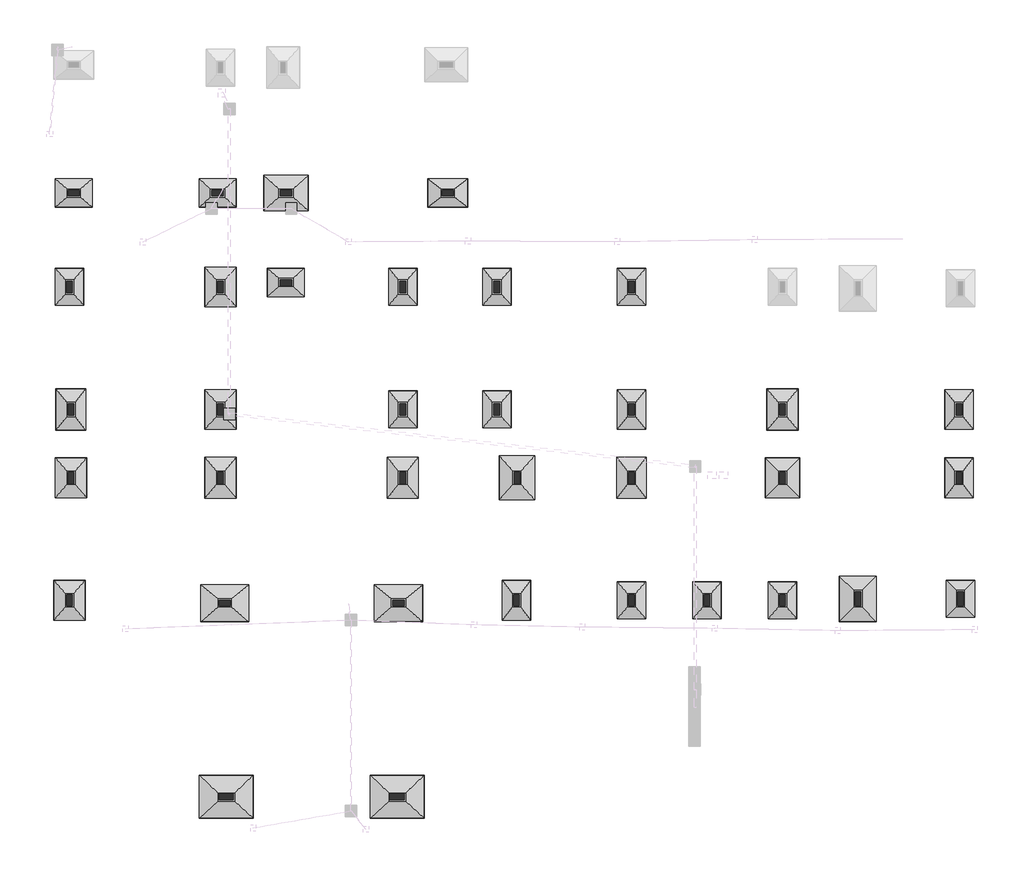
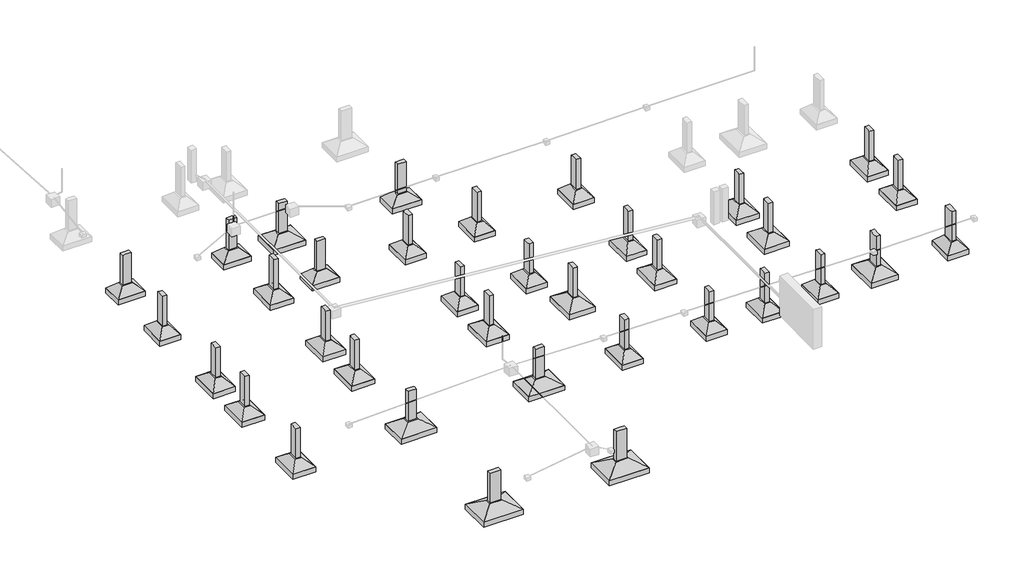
# One storey, part 1 of 2: 35 columns, 35 fasteners.
"""IFC4 building model written with IfcOpenShell, lengths in millimetres."""

from ifc_helpers import new_model, si_unit, origin, place, context, project, spatial, faceted_brep, transform, mapped, element, save
from components import s1_4bae340d, s16_36f2526b, s10_b3591f86, s19_11b22e92, s27_cbfd85cb, s32_88197e2a, s39_0cca4455, s25_540ac755, s26_9032f409, s48_2effd727, s50_1e73553d

model = new_model("IFC4")

# Units and contexts
model_context = context("Model", 3, world=origin())
ifc_project = project(units=[si_unit("LENGTHUNIT", "METRE", prefix="MILLI")], contexts=[model_context])

# Site, building, storey
site = spatial("IfcSite", under=ifc_project)
building = spatial("IfcBuilding", under=site)
storey = spatial("IfcBuildingStorey", under=building, Name="FUNDAÇÃO", Elevation=0.0)

# Columns
placement = place(None, origin())
element("IfcColumn", 1, ObjectType="TQS - Pilar retangular : 20,0x40,0", at=placement, inside=storey, context=model_context, shape_type="Brep", body=[
    faceted_brep([(150.0, 400.0, 0.0), (150.0, 0.0, 0.0), (-50.0, 0.0, 0.0), (-50.0, 400.0, 0.0), (150.0, 400.0, 1500.0), (150.0, 150.0, 1500.0), (150.0, 0.0, 1500.0), (150.0, 0.0, 900.0), (150.0, 400.0, 1000.0), (-50.0, 0.0, 1500.0), (-50.0, 400.0, 1500.0), (0.0, 400.0, 1500.0)], [[[0, 1, 2, 3]], [[4, 5, 6, 7, 1, 0, 8]], [[6, 9, 2, 1, 7]], [[9, 10, 3, 2]], [[10, 11, 4, 8, 0, 3]], [[4, 11, 10, 9, 6, 5]]]),
])
element("IfcColumn", 2, ObjectType="TQS - Pilar retangular : 20,0x40,0", at=placement, inside=storey, context=model_context, shape_type="Brep", body=[
    faceted_brep([(5700.0, 0.0, 0.0), (5300.0, 0.0, 0.0), (5300.0, 200.0, 0.0), (5700.0, 200.0, 0.0), (5700.0, 0.0, 1500.0), (5450.0, 0.0, 1500.0), (5300.0, 0.0, 1500.0), (5300.0, 0.0, 1000.0), (5300.0, 0.0, 900.0), (5700.0, 0.0, 900.0), (5300.0, 150.0, 1500.0), (5300.0, 200.0, 1500.0), (5300.0, 200.0, 1000.0), (5450.0, 200.0, 1500.0), (5700.0, 200.0, 1500.0), (5700.0, 150.0, 1500.0)], [[[0, 1, 2, 3]], [[4, 5, 6, 7, 8, 1, 0, 9]], [[6, 10, 11, 12, 2, 1, 8, 7]], [[11, 13, 14, 3, 2, 12]], [[14, 15, 4, 9, 0, 3]], [[4, 15, 14, 13, 11, 10, 6, 5]]]),
])
element("IfcColumn", 3, ObjectType="TQS - Pilar retangular : 20,0x40,0", at=placement, inside=storey, context=model_context, shape_type="Brep", body=[
    faceted_brep([(11800.0, 0.0, 0.0), (11400.0, 0.0, 0.0), (11400.0, 200.0, 0.0), (11800.0, 200.0, 0.0), (11800.0, 0.0, 1500.0), (11650.0, 0.0, 1500.0), (11400.0, 0.0, 1500.0), (11400.0, 0.0, 900.0), (11800.0, 0.0, 900.0), (11800.0, 0.0, 1000.0), (11400.0, 150.0, 1500.0), (11400.0, 200.0, 1500.0), (11650.0, 200.0, 1500.0), (11800.0, 200.0, 1500.0), (11800.0, 200.0, 1000.0), (11800.0, 150.0, 1500.0)], [[[0, 1, 2, 3]], [[4, 5, 6, 7, 1, 0, 8, 9]], [[6, 10, 11, 2, 1, 7]], [[11, 12, 13, 14, 3, 2]], [[13, 15, 4, 9, 8, 0, 3, 14]], [[4, 15, 13, 12, 11, 10, 6, 5]]]),
])
element("IfcColumn", 4, ObjectType="TQS - Pilar retangular : 20,0x40,0", at=placement, inside=storey, context=model_context, shape_type="Brep", body=[
    faceted_brep([(25180.0, 400.0, 0.0), (25180.0, 0.0, 0.0), (24980.0, 0.0, 0.0), (24980.0, 400.0, 0.0), (25180.0, 400.0, 1500.0), (25180.0, 150.0, 1500.0), (25180.0, 0.0, 1500.0), (25180.0, 0.0, 900.0), (25180.0, 400.0, 1000.0), (24980.0, 0.0, 1500.0), (24980.0, 0.0, 900.0), (24980.0, 150.0, 1500.0), (24980.0, 400.0, 1500.0), (25030.0, 400.0, 1500.0)], [[[0, 1, 2, 3]], [[4, 5, 6, 7, 1, 0, 8]], [[6, 9, 10, 2, 1, 7]], [[9, 11, 12, 3, 2, 10]], [[12, 13, 4, 8, 0, 3]], [[4, 13, 12, 11, 9, 6, 5]]]),
])
element("IfcColumn", 5, ObjectType="TQS - Pilar retangular : 20,0x40,0", at=placement, inside=storey, context=model_context, shape_type="Brep", body=[
    faceted_brep([(22530.0, 400.0, 0.0), (22530.0, 0.0, 0.0), (22330.0, 0.0, 0.0), (22330.0, 400.0, 0.0), (22530.0, 400.0, 1500.0), (22530.0, 150.0, 1500.0), (22530.0, 0.0, 1500.0), (22530.0, 0.0, 900.0), (22530.0, 400.0, 1000.0), (22330.0, 0.0, 1500.0), (22330.0, 0.0, 900.0), (22330.0, 150.0, 1500.0), (22330.0, 400.0, 1500.0), (22380.0, 400.0, 1500.0)], [[[0, 1, 2, 3]], [[4, 5, 6, 7, 1, 0, 8]], [[6, 9, 10, 2, 1, 7]], [[9, 11, 12, 3, 2, 10]], [[12, 13, 4, 8, 0, 3]], [[4, 13, 12, 11, 9, 6, 5]]]),
])
element("IfcColumn", 6, ObjectType="TQS - Pilar retangular : 20,0x40,0", at=placement, inside=storey, context=model_context, shape_type="Brep", body=[
    faceted_brep([(19880.0, 400.0, 0.0), (19880.0, 0.0, 0.0), (19680.0, 0.0, 0.0), (19680.0, 400.0, 0.0), (19880.0, 400.0, 1500.0), (19880.0, 150.0, 1500.0), (19880.0, 0.0, 1500.0), (19880.0, 0.0, 900.0), (19880.0, 400.0, 1000.0), (19680.0, 0.0, 1500.0), (19680.0, 0.0, 900.0), (19680.0, 150.0, 1500.0), (19680.0, 400.0, 1500.0), (19730.0, 400.0, 1500.0)], [[[0, 1, 2, 3]], [[4, 5, 6, 7, 1, 0, 8]], [[6, 9, 10, 2, 1, 7]], [[9, 11, 12, 3, 2, 10]], [[12, 13, 4, 8, 0, 3]], [[4, 13, 12, 11, 9, 6, 5]]]),
])
element("IfcColumn", 7, ObjectType="TQS - Pilar retangular : 20,0x40,0", at=placement, inside=storey, context=model_context, shape_type="Brep", body=[
    faceted_brep([(15840.0, 400.0, 0.0), (15840.0, 0.0, 0.0), (15640.0, 0.0, 0.0), (15640.0, 400.0, 0.0), (15840.0, 400.0, 1500.0), (15840.0, 150.0, 1500.0), (15840.0, 0.0, 1500.0), (15840.0, 0.0, 900.0), (15840.0, 400.0, 1000.0), (15640.0, 0.0, 1500.0), (15640.0, 0.0, 900.0), (15640.0, 150.0, 1500.0), (15640.0, 400.0, 1500.0), (15690.0, 400.0, 1500.0)], [[[0, 1, 2, 3]], [[4, 5, 6, 7, 1, 0, 8]], [[6, 9, 10, 2, 1, 7]], [[9, 11, 12, 3, 2, 10]], [[12, 13, 4, 8, 0, 3]], [[4, 13, 12, 11, 9, 6, 5]]]),
])
element("IfcColumn", 8, ObjectType="TQS - Pilar retangular : 20,0x40,0", at=placement, inside=storey, context=model_context, shape_type="Brep", body=[
    faceted_brep([(31380.0, 4700.0, 0.0), (31380.0, 4300.0, 0.0), (31180.0, 4300.0, 0.0), (31180.0, 4700.0, 0.0), (31380.0, 4700.0, 1500.0), (31380.0, 4300.0, 1500.0), (31380.0, 4300.0, 1000.0), (31380.0, 4700.0, 1000.0), (31230.0, 4300.0, 1500.0), (31180.0, 4300.0, 1500.0), (31180.0, 4550.0, 1500.0), (31180.0, 4700.0, 1500.0), (31180.0, 4700.0, 950.0), (31230.0, 4700.0, 1500.0)], [[[0, 1, 2, 3]], [[4, 5, 6, 1, 0, 7]], [[5, 8, 9, 2, 1, 6]], [[9, 10, 11, 12, 3, 2]], [[11, 13, 4, 7, 0, 3, 12]], [[4, 13, 11, 10, 9, 8, 5]]]),
])
element("IfcColumn", 9, ObjectType="TQS - Pilar retangular : 20,0x40,0", at=placement, inside=storey, context=model_context, shape_type="Brep", body=[
    faceted_brep([(31380.0, 7100.0, 0.0), (31380.0, 6700.0, 0.0), (31180.0, 6700.0, 0.0), (31180.0, 7100.0, 0.0), (31380.0, 7100.0, 1500.0), (31380.0, 6700.0, 1500.0), (31380.0, 6700.0, 1000.0), (31380.0, 7100.0, 1000.0), (31230.0, 6700.0, 1500.0), (31180.0, 6700.0, 1500.0), (31180.0, 6700.0, 950.0), (31180.0, 6850.0, 1500.0), (31180.0, 7100.0, 1500.0), (31230.0, 7100.0, 1500.0)], [[[0, 1, 2, 3]], [[4, 5, 6, 1, 0, 7]], [[5, 8, 9, 10, 2, 1, 6]], [[9, 11, 12, 3, 2, 10]], [[12, 13, 4, 7, 0, 3]], [[4, 13, 12, 11, 9, 8, 5]]]),
])
element("IfcColumn", 10, ObjectType="TQS - Pilar retangular : 20,0x40,0", at=placement, inside=storey, context=model_context, shape_type="Brep", body=[
    faceted_brep([(19880.0, 11400.0, 0.0), (19880.0, 11000.0, 0.0), (19680.0, 11000.0, 0.0), (19680.0, 11400.0, 0.0), (19880.0, 11400.0, 1500.0), (19880.0, 11250.0, 1500.0), (19880.0, 11000.0, 1500.0), (19880.0, 11000.0, 1000.0), (19880.0, 11400.0, 900.0), (19730.0, 11000.0, 1500.0), (19680.0, 11000.0, 1500.0), (19680.0, 11250.0, 1500.0), (19680.0, 11400.0, 1500.0), (19680.0, 11400.0, 900.0)], [[[0, 1, 2, 3]], [[4, 5, 6, 7, 1, 0, 8]], [[6, 9, 10, 2, 1, 7]], [[10, 11, 12, 13, 3, 2]], [[12, 4, 8, 0, 3, 13]], [[4, 12, 11, 10, 9, 6, 5]]]),
])
element("IfcColumn", 11, ObjectType="TQS - Pilar retangular : 20,0x40,0", at=placement, inside=storey, context=model_context, shape_type="Brep", body=[
    faceted_brep([(15150.0, 11400.0, 0.0), (15150.0, 11000.0, 0.0), (14950.0, 11000.0, 0.0), (14950.0, 11400.0, 0.0), (15150.0, 11400.0, 1500.0), (15150.0, 11250.0, 1500.0), (15150.0, 11000.0, 1500.0), (15150.0, 11000.0, 1000.0), (15150.0, 11400.0, 900.0), (15000.0, 11000.0, 1500.0), (14950.0, 11000.0, 1500.0), (14950.0, 11250.0, 1500.0), (14950.0, 11400.0, 1500.0), (14950.0, 11400.0, 900.0)], [[[0, 1, 2, 3]], [[4, 5, 6, 7, 1, 0, 8]], [[6, 9, 10, 2, 1, 7]], [[10, 11, 12, 13, 3, 2]], [[12, 4, 8, 0, 3, 13]], [[4, 12, 11, 10, 9, 6, 5]]]),
])
element("IfcColumn", 12, ObjectType="TQS - Pilar retangular : 20,0x40,0", at=placement, inside=storey, context=model_context, shape_type="Brep", body=[
    faceted_brep([(11850.0, 4700.0, 0.0), (11850.0, 4300.0, 0.0), (11650.0, 4300.0, 0.0), (11650.0, 4700.0, 0.0), (11850.0, 4700.0, 1500.0), (11850.0, 4550.0, 1500.0), (11850.0, 4300.0, 1500.0), (11850.0, 4700.0, 950.0), (11800.0, 4300.0, 1500.0), (11650.0, 4300.0, 1500.0), (11650.0, 4300.0, 1000.0), (11650.0, 4700.0, 1500.0), (11650.0, 4700.0, 1000.0), (11800.0, 4700.0, 1500.0)], [[[0, 1, 2, 3]], [[4, 5, 6, 1, 0, 7]], [[6, 8, 9, 10, 2, 1]], [[9, 11, 12, 3, 2, 10]], [[11, 13, 4, 7, 0, 3, 12]], [[4, 13, 11, 9, 8, 6, 5]]]),
])
element("IfcColumn", 13, ObjectType="TQS - Pilar retangular : 20,0x40,0", at=placement, inside=storey, context=model_context, shape_type="Brep", body=[
    faceted_brep([(11850.0, 7100.0, 0.0), (11850.0, 6700.0, 0.0), (11650.0, 6700.0, 0.0), (11650.0, 7100.0, 0.0), (11850.0, 7100.0, 1500.0), (11850.0, 6850.0, 1500.0), (11850.0, 6700.0, 1500.0), (11850.0, 6700.0, 950.0), (11800.0, 6700.0, 1500.0), (11650.0, 6700.0, 1500.0), (11650.0, 6700.0, 1000.0), (11650.0, 7100.0, 1500.0), (11650.0, 7100.0, 1000.0), (11800.0, 7100.0, 1500.0)], [[[0, 1, 2, 3]], [[4, 5, 6, 7, 1, 0]], [[6, 8, 9, 10, 2, 1, 7]], [[9, 11, 12, 3, 2, 10]], [[11, 13, 4, 0, 3, 12]], [[4, 13, 11, 9, 8, 6, 5]]]),
])
element("IfcColumn", 14, ObjectType="TQS - Pilar retangular : 20,0x40,0", at=placement, inside=storey, context=model_context, shape_type="Brep", body=[
    faceted_brep([(11850.0, 11400.0, 0.0), (11850.0, 11000.0, 0.0), (11650.0, 11000.0, 0.0), (11650.0, 11400.0, 0.0), (11850.0, 11400.0, 1500.0), (11850.0, 11250.0, 1500.0), (11850.0, 11000.0, 1500.0), (11850.0, 11400.0, 900.0), (11800.0, 11000.0, 1500.0), (11650.0, 11000.0, 1500.0), (11650.0, 11000.0, 1000.0), (11650.0, 11250.0, 1500.0), (11650.0, 11400.0, 1500.0), (11650.0, 11400.0, 900.0)], [[[0, 1, 2, 3]], [[4, 5, 6, 1, 0, 7]], [[6, 8, 9, 10, 2, 1]], [[9, 11, 12, 13, 3, 2, 10]], [[12, 4, 7, 0, 3, 13]], [[4, 12, 11, 9, 8, 6, 5]]]),
])
element("IfcColumn", 15, ObjectType="TQS - Pilar retangular : 20,0x40,0", at=placement, inside=storey, context=model_context, shape_type="Brep", body=[
    faceted_brep([(15865.0, 4700.0, 0.0), (15865.0, 4300.0, 0.0), (15665.0, 4300.0, 0.0), (15665.0, 4700.0, 0.0), (15865.0, 4700.0, 1500.0), (15865.0, 4550.0, 1500.0), (15865.0, 4300.0, 1500.0), (15865.0, 4700.0, 950.0), (15840.0, 4300.0, 1500.0), (15690.0, 4300.0, 1500.0), (15665.0, 4300.0, 1500.0), (15665.0, 4550.0, 1500.0), (15665.0, 4700.0, 1500.0), (15665.0, 4700.0, 950.0)], [[[0, 1, 2, 3]], [[4, 5, 6, 1, 0, 7]], [[6, 8, 9, 10, 2, 1]], [[10, 11, 12, 13, 3, 2]], [[12, 4, 7, 0, 3, 13]], [[4, 12, 11, 10, 9, 8, 6, 5]]]),
])
element("IfcColumn", 16, ObjectType="TQS - Pilar retangular : 20,0x40,0", at=placement, inside=storey, context=model_context, shape_type="Brep", body=[
    faceted_brep([(19880.0, 4700.0, 0.0), (19880.0, 4300.0, 0.0), (19680.0, 4300.0, 0.0), (19680.0, 4700.0, 0.0), (19880.0, 4700.0, 1500.0), (19880.0, 4550.0, 1500.0), (19880.0, 4300.0, 1500.0), (19880.0, 4300.0, 1000.0), (19880.0, 4700.0, 950.0), (19880.0, 4700.0, 1000.0), (19730.0, 4300.0, 1500.0), (19680.0, 4300.0, 1500.0), (19680.0, 4550.0, 1500.0), (19680.0, 4700.0, 1500.0), (19680.0, 4700.0, 950.0), (19730.0, 4700.0, 1500.0)], [[[0, 1, 2, 3]], [[4, 5, 6, 7, 1, 0, 8, 9]], [[6, 10, 11, 2, 1, 7]], [[11, 12, 13, 14, 3, 2]], [[13, 15, 4, 9, 8, 0, 3, 14]], [[4, 15, 13, 12, 11, 10, 6, 5]]]),
])
element("IfcColumn", 17, ObjectType="TQS - Pilar retangular : 20,0x40,0", at=placement, inside=storey, context=model_context, shape_type="Brep", body=[
    faceted_brep([(25180.0, 4700.0, 0.0), (25180.0, 4300.0, 0.0), (24980.0, 4300.0, 0.0), (24980.0, 4700.0, 0.0), (25180.0, 4700.0, 1500.0), (25180.0, 4550.0, 1500.0), (25180.0, 4300.0, 1500.0), (25180.0, 4300.0, 1000.0), (25180.0, 4700.0, 950.0), (25180.0, 4700.0, 1000.0), (25030.0, 4300.0, 1500.0), (24980.0, 4300.0, 1500.0), (24980.0, 4550.0, 1500.0), (24980.0, 4700.0, 1500.0), (24980.0, 4700.0, 950.0), (25030.0, 4700.0, 1500.0)], [[[0, 1, 2, 3]], [[4, 5, 6, 7, 1, 0, 8, 9]], [[6, 10, 11, 2, 1, 7]], [[11, 12, 13, 14, 3, 2]], [[13, 15, 4, 9, 8, 0, 3, 14]], [[4, 15, 13, 12, 11, 10, 6, 5]]]),
])
element("IfcColumn", 18, ObjectType="TQS - Pilar retangular : 20,0x40,0", at=placement, inside=storey, context=model_context, shape_type="Brep", body=[
    faceted_brep([(25180.0, 7100.0, 0.0), (25180.0, 6700.0, 0.0), (24980.0, 6700.0, 0.0), (24980.0, 7100.0, 0.0), (25180.0, 7100.0, 1500.0), (25180.0, 6850.0, 1500.0), (25180.0, 6700.0, 1500.0), (25180.0, 6700.0, 1000.0), (25180.0, 6700.0, 950.0), (25180.0, 7100.0, 1000.0), (25030.0, 6700.0, 1500.0), (24980.0, 6700.0, 1500.0), (24980.0, 6700.0, 950.0), (24980.0, 6850.0, 1500.0), (24980.0, 7100.0, 1500.0), (25030.0, 7100.0, 1500.0)], [[[0, 1, 2, 3]], [[4, 5, 6, 7, 8, 1, 0, 9]], [[6, 10, 11, 12, 2, 1, 8, 7]], [[11, 13, 14, 3, 2, 12]], [[14, 15, 4, 9, 0, 3]], [[4, 15, 14, 13, 11, 10, 6, 5]]]),
])
element("IfcColumn", 19, ObjectType="TQS - Pilar retangular : 20,0x40,0", at=placement, inside=storey, context=model_context, shape_type="Brep", body=[
    faceted_brep([(19880.0, 7100.0, 0.0), (19880.0, 6700.0, 0.0), (19680.0, 6700.0, 0.0), (19680.0, 7100.0, 0.0), (19880.0, 7100.0, 1500.0), (19880.0, 6850.0, 1500.0), (19880.0, 6700.0, 1500.0), (19880.0, 6700.0, 1000.0), (19880.0, 6700.0, 950.0), (19880.0, 7100.0, 1000.0), (19730.0, 6700.0, 1500.0), (19680.0, 6700.0, 1500.0), (19680.0, 6700.0, 950.0), (19680.0, 6850.0, 1500.0), (19680.0, 7100.0, 1500.0), (19730.0, 7100.0, 1500.0)], [[[0, 1, 2, 3]], [[4, 5, 6, 7, 8, 1, 0, 9]], [[6, 10, 11, 12, 2, 1, 8, 7]], [[11, 13, 14, 3, 2, 12]], [[14, 15, 4, 9, 0, 3]], [[4, 15, 14, 13, 11, 10, 6, 5]]]),
])
element("IfcColumn", 20, ObjectType="TQS - Pilar retangular : 20,0x40,0", at=placement, inside=storey, context=model_context, shape_type="Brep", body=[
    faceted_brep([(15150.0, 7100.0, 0.0), (15150.0, 6700.0, 0.0), (14950.0, 6700.0, 0.0), (14950.0, 7100.0, 0.0), (15150.0, 7100.0, 1500.0), (15150.0, 6850.0, 1500.0), (15150.0, 6700.0, 1500.0), (15150.0, 6700.0, 950.0), (15150.0, 7100.0, 1000.0), (14950.0, 6700.0, 1500.0), (14950.0, 6700.0, 950.0), (14950.0, 6850.0, 1500.0), (14950.0, 7100.0, 1500.0), (15000.0, 7100.0, 1500.0)], [[[0, 1, 2, 3]], [[4, 5, 6, 7, 1, 0, 8]], [[6, 9, 10, 2, 1, 7]], [[9, 11, 12, 3, 2, 10]], [[12, 13, 4, 8, 0, 3]], [[4, 13, 12, 11, 9, 6, 5]]]),
])
element("IfcColumn", 21, ObjectType="TQS - Pilar retangular : 20,0x40,0", at=placement, inside=storey, context=model_context, shape_type="Brep", body=[
    faceted_brep([(5450.0, 4700.0, 0.0), (5450.0, 4300.0, 0.0), (5250.0, 4300.0, 0.0), (5250.0, 4700.0, 0.0), (5450.0, 4700.0, 1500.0), (5450.0, 4300.0, 1500.0), (5450.0, 4300.0, 1000.0), (5450.0, 4700.0, 1000.0), (5300.0, 4300.0, 1500.0), (5250.0, 4300.0, 1500.0), (5250.0, 4550.0, 1500.0), (5250.0, 4700.0, 1500.0), (5250.0, 4700.0, 1000.0), (5300.0, 4700.0, 1500.0)], [[[0, 1, 2, 3]], [[4, 5, 6, 1, 0, 7]], [[5, 8, 9, 2, 1, 6]], [[9, 10, 11, 12, 3, 2]], [[11, 13, 4, 7, 0, 3, 12]], [[4, 13, 11, 10, 9, 8, 5]]]),
])
element("IfcColumn", 22, ObjectType="TQS - Pilar retangular : 20,0x40,0", at=placement, inside=storey, context=model_context, shape_type="Brep", body=[
    faceted_brep([(5450.0, 7100.0, 0.0), (5450.0, 6700.0, 0.0), (5250.0, 6700.0, 0.0), (5250.0, 7100.0, 0.0), (5450.0, 7100.0, 1500.0), (5450.0, 6700.0, 1500.0), (5450.0, 6700.0, 1000.0), (5450.0, 7100.0, 1000.0), (5300.0, 6700.0, 1500.0), (5250.0, 6700.0, 1500.0), (5250.0, 6700.0, 1000.0), (5250.0, 6850.0, 1500.0), (5250.0, 7100.0, 1500.0), (5300.0, 7100.0, 1500.0)], [[[0, 1, 2, 3]], [[4, 5, 6, 1, 0, 7]], [[5, 8, 9, 10, 2, 1, 6]], [[9, 11, 12, 3, 2, 10]], [[12, 13, 4, 7, 0, 3]], [[4, 13, 12, 11, 9, 8, 5]]]),
])
element("IfcColumn", 23, ObjectType="TQS - Pilar retangular : 20,0x40,0", at=placement, inside=storey, context=model_context, shape_type="Brep", body=[
    faceted_brep([(200.0, 7100.0, 0.0), (200.0, 6700.0, 0.0), (0.0, 6700.0, 0.0), (0.0, 7100.0, 0.0), (200.0, 7100.0, 1500.0), (200.0, 6850.0, 1500.0), (200.0, 6700.0, 1500.0), (200.0, 6700.0, 1000.0), (150.0, 6700.0, 1500.0), (0.0, 6700.0, 1500.0), (0.0, 6700.0, 1000.0), (0.0, 7100.0, 1500.0), (0.0, 7100.0, 1000.0), (150.0, 7100.0, 1500.0)], [[[0, 1, 2, 3]], [[4, 5, 6, 7, 1, 0]], [[6, 8, 9, 10, 2, 1, 7]], [[9, 11, 12, 3, 2, 10]], [[11, 13, 4, 0, 3, 12]], [[4, 13, 11, 9, 8, 6, 5]]]),
])
element("IfcColumn", 24, ObjectType="TQS - Pilar retangular : 20,0x40,0", at=placement, inside=storey, context=model_context, shape_type="Brep", body=[
    faceted_brep([(200.0, 4700.0, 0.0), (200.0, 4300.0, 0.0), (0.0, 4300.0, 0.0), (0.0, 4700.0, 0.0), (200.0, 4700.0, 1500.0), (200.0, 4550.0, 1500.0), (200.0, 4300.0, 1500.0), (200.0, 4700.0, 1000.0), (150.0, 4300.0, 1500.0), (0.0, 4300.0, 1500.0), (0.0, 4300.0, 1000.0), (0.0, 4700.0, 1500.0), (0.0, 4700.0, 1000.0), (150.0, 4700.0, 1500.0)], [[[0, 1, 2, 3]], [[4, 5, 6, 1, 0, 7]], [[6, 8, 9, 10, 2, 1]], [[9, 11, 12, 3, 2, 10]], [[11, 13, 4, 7, 0, 3, 12]], [[4, 13, 11, 9, 8, 6, 5]]]),
])
element("IfcColumn", 25, ObjectType="TQS - Pilar retangular : 20,0x40,0", at=placement, inside=storey, context=model_context, shape_type="Brep", body=[
    faceted_brep([(150.0, 11400.0, 0.0), (150.0, 11000.0, 0.0), (-50.0, 11000.0, 0.0), (-50.0, 11400.0, 0.0), (150.0, 11400.0, 1500.0), (150.0, 11250.0, 1500.0), (150.0, 11000.0, 1500.0), (150.0, 11000.0, 1000.0), (150.0, 11400.0, 900.0), (150.0, 11400.0, 1000.0), (0.0, 11000.0, 1500.0), (-50.0, 11000.0, 1500.0), (-50.0, 11400.0, 1500.0), (0.0, 11400.0, 1500.0)], [[[0, 1, 2, 3]], [[4, 5, 6, 7, 1, 0, 8, 9]], [[6, 10, 11, 2, 1, 7]], [[11, 12, 3, 2]], [[12, 13, 4, 9, 8, 0, 3]], [[4, 13, 12, 11, 10, 6, 5]]]),
])
element("IfcColumn", 26, ObjectType="TQS - Pilar retangular : 20,0x40,0", at=placement, inside=storey, context=model_context, shape_type="Brep", body=[
    faceted_brep([(5450.0, 11400.0, 0.0), (5450.0, 11000.0, 0.0), (5250.0, 11000.0, 0.0), (5250.0, 11400.0, 0.0), (5450.0, 11400.0, 1500.0), (5450.0, 11250.0, 1500.0), (5450.0, 11000.0, 1500.0), (5450.0, 11000.0, 1000.0), (5450.0, 11400.0, 900.0), (5450.0, 11400.0, 1000.0), (5300.0, 11000.0, 1500.0), (5250.0, 11000.0, 1500.0), (5250.0, 11250.0, 1500.0), (5250.0, 11400.0, 1500.0), (5250.0, 11400.0, 900.0), (5300.0, 11400.0, 1500.0)], [[[0, 1, 2, 3]], [[4, 5, 6, 7, 1, 0, 8, 9]], [[6, 10, 11, 2, 1, 7]], [[11, 12, 13, 14, 3, 2]], [[13, 15, 4, 9, 8, 0, 3, 14]], [[4, 15, 13, 12, 11, 10, 6, 5]]]),
])
element("IfcColumn", 27, ObjectType="TQS - Pilar retangular : 20,0x40,0", at=placement, inside=storey, context=model_context, shape_type="Brep", body=[
    faceted_brep([(400.0, 14400.0, 0.0), (0.0, 14400.0, 0.0), (0.0, 14600.0, 0.0), (400.0, 14600.0, 0.0), (400.0, 14400.0, 1500.0), (150.0, 14400.0, 1500.0), (0.0, 14400.0, 1500.0), (0.0, 14400.0, 1000.0), (400.0, 14400.0, 900.0), (0.0, 14600.0, 1500.0), (0.0, 14600.0, 1000.0), (150.0, 14600.0, 1500.0), (400.0, 14600.0, 1500.0), (400.0, 14550.0, 1500.0)], [[[0, 1, 2, 3]], [[4, 5, 6, 7, 1, 0, 8]], [[6, 9, 10, 2, 1, 7]], [[9, 11, 12, 3, 2, 10]], [[12, 13, 4, 8, 0, 3]], [[4, 13, 12, 11, 9, 6, 5]]]),
])
element("IfcColumn", 28, ObjectType="TQS - Pilar retangular : 20,0x40,0", at=placement, inside=storey, context=model_context, shape_type="Brep", body=[
    faceted_brep([(5450.0, 14400.0, 0.0), (5050.0, 14400.0, 0.0), (5050.0, 14600.0, 0.0), (5450.0, 14600.0, 0.0), (5450.0, 14400.0, 1500.0), (5300.0, 14400.0, 1500.0), (5050.0, 14400.0, 1500.0), (5050.0, 14400.0, 900.0), (5450.0, 14400.0, 900.0), (5450.0, 14400.0, 1000.0), (5050.0, 14550.0, 1500.0), (5050.0, 14600.0, 1500.0), (5300.0, 14600.0, 1500.0), (5450.0, 14600.0, 1500.0), (5450.0, 14600.0, 1000.0), (5450.0, 14550.0, 1500.0)], [[[0, 1, 2, 3]], [[4, 5, 6, 7, 1, 0, 8, 9]], [[6, 10, 11, 2, 1, 7]], [[11, 12, 13, 14, 3, 2]], [[13, 15, 4, 9, 8, 0, 3, 14]], [[4, 15, 13, 12, 11, 10, 6, 5]]]),
])
element("IfcColumn", 29, ObjectType="TQS - Pilar retangular : 20,0x40,0", at=placement, inside=storey, context=model_context, shape_type="Brep", body=[
    faceted_brep([(7850.0, 14400.0, 0.0), (7450.0, 14400.0, 0.0), (7450.0, 14600.0, 0.0), (7850.0, 14600.0, 0.0), (7850.0, 14400.0, 1500.0), (7600.0, 14400.0, 1500.0), (7450.0, 14400.0, 1500.0), (7450.0, 14400.0, 1000.0), (7450.0, 14400.0, 900.0), (7850.0, 14400.0, 900.0), (7450.0, 14550.0, 1500.0), (7450.0, 14600.0, 1500.0), (7450.0, 14600.0, 1000.0), (7600.0, 14600.0, 1500.0), (7850.0, 14600.0, 1500.0), (7850.0, 14550.0, 1500.0)], [[[0, 1, 2, 3]], [[4, 5, 6, 7, 8, 1, 0, 9]], [[6, 10, 11, 12, 2, 1, 8, 7]], [[11, 13, 14, 3, 2, 12]], [[14, 15, 4, 9, 0, 3]], [[4, 15, 14, 13, 11, 10, 6, 5]]]),
])
element("IfcColumn", 30, ObjectType="TQS - Pilar retangular : 20,0x40,0", at=placement, inside=storey, context=model_context, shape_type="Brep", body=[
    faceted_brep([(13530.0, 14400.0, 0.0), (13130.0, 14400.0, 0.0), (13130.0, 14600.0, 0.0), (13530.0, 14600.0, 0.0), (13530.0, 14400.0, 1500.0), (13380.0, 14400.0, 1500.0), (13130.0, 14400.0, 1500.0), (13130.0, 14400.0, 900.0), (13530.0, 14400.0, 1000.0), (13130.0, 14550.0, 1500.0), (13130.0, 14600.0, 1500.0), (13380.0, 14600.0, 1500.0), (13530.0, 14600.0, 1500.0), (13530.0, 14600.0, 1000.0)], [[[0, 1, 2, 3]], [[4, 5, 6, 7, 1, 0, 8]], [[6, 9, 10, 2, 1, 7]], [[10, 11, 12, 13, 3, 2]], [[12, 4, 8, 0, 3, 13]], [[4, 12, 11, 10, 9, 6, 5]]]),
])
element("IfcColumn", 31, ObjectType="TQS - Pilar retangular : 20,0x40,0", at=placement, inside=storey, context=model_context, shape_type="Brep", body=[
    faceted_brep([(7450.0, 11450.0, 0.0), (7850.0, 11450.0, 0.0), (7850.0, 11250.0, 0.0), (7450.0, 11250.0, 0.0), (7450.0, 11450.0, 1500.0), (7600.0, 11450.0, 1500.0), (7850.0, 11450.0, 1500.0), (7450.0, 11450.0, 1000.0), (7850.0, 11400.0, 1500.0), (7850.0, 11250.0, 1500.0), (7850.0, 11250.0, 900.0), (7450.0, 11250.0, 1500.0), (7450.0, 11250.0, 900.0), (7450.0, 11400.0, 1500.0)], [[[0, 1, 2, 3]], [[4, 5, 6, 1, 0, 7]], [[6, 8, 9, 10, 2, 1]], [[9, 11, 12, 3, 2, 10]], [[11, 13, 4, 7, 0, 3, 12]], [[4, 13, 11, 9, 8, 6, 5]]]),
])
element("IfcColumn", 32, ObjectType="TQS - Pilar retangular : 20,0x50,0", at=placement, inside=storey, context=model_context, shape_type="Brep", body=[
    faceted_brep([(31430.0, 500.0, 0.0), (31430.0, 0.0, 0.0), (31230.0, 0.0, 0.0), (31230.0, 500.0, 0.0), (31430.0, 500.0, 1500.0), (31430.0, 0.0, 1500.0), (31230.0, 0.0, 1500.0), (31230.0, 0.0, 900.0), (31230.0, 150.0, 1500.0), (31230.0, 500.0, 1500.0), (31230.0, 500.0, 1000.0), (31380.0, 500.0, 1500.0)], [[[0, 1, 2, 3]], [[4, 5, 1, 0]], [[5, 6, 7, 2, 1]], [[6, 8, 9, 10, 3, 2, 7]], [[9, 11, 4, 0, 3, 10]], [[4, 11, 9, 8, 6, 5]]]),
])
element("IfcColumn", 33, ObjectType="TQS - Pilar retangular : 20,0x50,0", at=placement, inside=storey, context=model_context, shape_type="Brep", body=[
    faceted_brep([(27830.0, 500.0, 0.0), (27830.0, 0.0, 0.0), (27630.0, 0.0, 0.0), (27630.0, 500.0, 0.0), (27830.0, 500.0, 1500.0), (27830.0, 150.0, 1500.0), (27830.0, 0.0, 1500.0), (27830.0, 0.0, 900.0), (27830.0, 500.0, 950.0), (27630.0, 0.0, 1500.0), (27630.0, 0.0, 900.0), (27630.0, 150.0, 1500.0), (27630.0, 500.0, 1500.0), (27680.0, 500.0, 1500.0)], [[[0, 1, 2, 3]], [[4, 5, 6, 7, 1, 0, 8]], [[6, 9, 10, 2, 1, 7]], [[9, 11, 12, 3, 2, 10]], [[12, 13, 4, 8, 0, 3]], [[4, 13, 12, 11, 9, 6, 5]]]),
])
element("IfcColumn", 34, ObjectType="TQS - Pilar retangular : 20,0x50,0", at=placement, inside=storey, context=model_context, shape_type="Brep", body=[
    faceted_brep([(5300.0, -6600.0, 0.0), (5800.0, -6600.0, 0.0), (5800.0, -6800.0, 0.0), (5300.0, -6800.0, 0.0), (5300.0, -6600.0, 1500.0), (5450.0, -6600.0, 1500.0), (5800.0, -6600.0, 1500.0), (5800.0, -6600.0, 1000.0), (5300.0, -6600.0, 1000.0), (5800.0, -6800.0, 1500.0), (5800.0, -6800.0, 1000.0), (5300.0, -6800.0, 1500.0)], [[[0, 1, 2, 3]], [[4, 5, 6, 7, 1, 0, 8]], [[6, 9, 10, 2, 1, 7]], [[9, 11, 3, 2, 10]], [[11, 4, 8, 0, 3]], [[4, 11, 9, 6, 5]]]),
])
element("IfcColumn", 35, ObjectType="TQS - Pilar retangular : 20,0x50,0", at=placement, inside=storey, context=model_context, shape_type="Brep", body=[
    faceted_brep([(11300.0, -6600.0, 0.0), (11800.0, -6600.0, 0.0), (11800.0, -6800.0, 0.0), (11300.0, -6800.0, 0.0), (11300.0, -6600.0, 1500.0), (11650.0, -6600.0, 1500.0), (11800.0, -6600.0, 1500.0), (11800.0, -6600.0, 1000.0), (11300.0, -6600.0, 1000.0), (11800.0, -6800.0, 1500.0), (11300.0, -6800.0, 1500.0), (11300.0, -6800.0, 1000.0)], [[[0, 1, 2, 3]], [[4, 5, 6, 7, 1, 0, 8]], [[6, 9, 2, 1, 7]], [[9, 10, 11, 3, 2]], [[10, 4, 8, 0, 3, 11]], [[4, 10, 9, 6, 5]]]),
])

# Fasteners
s1_shape = s1_4bae340d(model_context)
element("IfcFastener", 36, ObjectType="TQS - Sapata : S14", at=placement, inside=storey, context=model_context, shape_type="MappedRepresentation", body=[
    mapped(s1_shape, transform((400.0, 14300.0, 0.0), x_axis=(0.0, -1.0, 0.0), y_axis=(1.0, 0.0, 0.0), z_axis=(0.0, 0.0, 1.0))),
])
element("IfcFastener", 37, ObjectType="TQS - Sapata : S15", at=placement, inside=storey, context=model_context, shape_type="MappedRepresentation", body=[
    mapped(s1_shape, transform((5450.0, 14300.0, 0.0), x_axis=(0.0, -1.0, 0.0), y_axis=(1.0, 0.0, 0.0), z_axis=(0.0, 0.0, 1.0))),
])
s16_shape = s16_36f2526b(model_context)
element("IfcFastener", 38, ObjectType="TQS - Sapata : S16", at=placement, inside=storey, context=model_context, shape_type="MappedRepresentation", body=[
    mapped(s16_shape, transform((7850.0, 14300.0, 0.0), x_axis=(0.0, -1.0, 0.0), y_axis=(1.0, 0.0, 0.0), z_axis=(0.0, 0.0, 1.0))),
])
s10_shape = s10_b3591f86(model_context)
element("IfcFastener", 39, ObjectType="TQS - Sapata : S17", at=placement, inside=storey, context=model_context, shape_type="MappedRepresentation", body=[
    mapped(s10_shape, transform((13530.0, 14300.0, 0.0), x_axis=(0.0, -1.0, 0.0), y_axis=(1.0, 0.0, 0.0), z_axis=(0.0, 0.0, 1.0))),
])
element("IfcFastener", 40, ObjectType="TQS - Sapata : S18", at=placement, inside=storey, context=model_context, shape_type="MappedRepresentation", body=[
    mapped(s1_shape, transform((250.0, 11400.0, 0.0), x_axis=(1.0, 0.0, 0.0), y_axis=(0.0, 1.0, 0.0), z_axis=(0.0, 0.0, 1.0))),
])
s19_shape = s19_11b22e92(model_context)
element("IfcFastener", 41, ObjectType="TQS - Sapata : S19", at=placement, inside=storey, context=model_context, shape_type="MappedRepresentation", body=[
    mapped(s19_shape, transform((5550.0, 11400.0, 0.0), x_axis=(1.0, 0.0, 0.0), y_axis=(0.0, 1.0, 0.0), z_axis=(0.0, 0.0, 1.0))),
])
element("IfcFastener", 42, ObjectType="TQS - Sapata : S20", at=placement, inside=storey, context=model_context, shape_type="MappedRepresentation", body=[
    mapped(s1_shape, transform((7450.0, 11550.0, 0.0), x_axis=(0.0, 1.0, 0.0), y_axis=(-1.0, 0.0, 0.0), z_axis=(0.0, 0.0, 1.0))),
])
element("IfcFastener", 43, ObjectType="TQS - Sapata : S21", at=placement, inside=storey, context=model_context, shape_type="MappedRepresentation", body=[
    mapped(s1_shape, transform((11950.0, 11400.0, 0.0), x_axis=(1.0, 0.0, 0.0), y_axis=(0.0, 1.0, 0.0), z_axis=(0.0, 0.0, 1.0))),
])
element("IfcFastener", 44, ObjectType="TQS - Sapata : S22", at=placement, inside=storey, context=model_context, shape_type="MappedRepresentation", body=[
    mapped(s1_shape, transform((15250.0, 11400.0, 0.0), x_axis=(1.0, 0.0, 0.0), y_axis=(0.0, 1.0, 0.0), z_axis=(0.0, 0.0, 1.0))),
])
element("IfcFastener", 45, ObjectType="TQS - Sapata : S23", at=placement, inside=storey, context=model_context, shape_type="MappedRepresentation", body=[
    mapped(s1_shape, transform((19980.0, 11400.0, 0.0), x_axis=(1.0, 0.0, 0.0), y_axis=(0.0, 1.0, 0.0), z_axis=(0.0, 0.0, 1.0))),
])
s27_shape = s27_cbfd85cb(model_context)
element("IfcFastener", 46, ObjectType="TQS - Sapata : S27", at=placement, inside=storey, context=model_context, shape_type="MappedRepresentation", body=[
    mapped(s27_shape, transform((300.0, 7100.0, 0.0), x_axis=(1.0, 0.0, 0.0), y_axis=(0.0, 1.0, 0.0), z_axis=(0.0, 0.0, 1.0))),
])
element("IfcFastener", 47, ObjectType="TQS - Sapata : S28", at=placement, inside=storey, context=model_context, shape_type="MappedRepresentation", body=[
    mapped(s19_shape, transform((5550.0, 7100.0, 0.0), x_axis=(1.0, 0.0, 0.0), y_axis=(0.0, 1.0, 0.0), z_axis=(0.0, 0.0, 1.0))),
])
element("IfcFastener", 48, ObjectType="TQS - Sapata : S29", at=placement, inside=storey, context=model_context, shape_type="MappedRepresentation", body=[
    mapped(s1_shape, transform((11950.0, 7100.0, 0.0), x_axis=(1.0, 0.0, 0.0), y_axis=(0.0, 1.0, 0.0), z_axis=(0.0, 0.0, 1.0))),
])
element("IfcFastener", 49, ObjectType="TQS - Sapata : S30", at=placement, inside=storey, context=model_context, shape_type="MappedRepresentation", body=[
    mapped(s1_shape, transform((15250.0, 7100.0, 0.0), x_axis=(1.0, 0.0, 0.0), y_axis=(0.0, 1.0, 0.0), z_axis=(0.0, 0.0, 1.0))),
])
element("IfcFastener", 50, ObjectType="TQS - Sapata : S31", at=placement, inside=storey, context=model_context, shape_type="MappedRepresentation", body=[
    mapped(s10_shape, transform((19980.0, 7100.0, 0.0), x_axis=(1.0, 0.0, 0.0), y_axis=(0.0, 1.0, 0.0), z_axis=(0.0, 0.0, 1.0))),
])
s32_shape = s32_88197e2a(model_context)
element("IfcFastener", 51, ObjectType="TQS - Sapata : S32", at=placement, inside=storey, context=model_context, shape_type="MappedRepresentation", body=[
    mapped(s32_shape, transform((25280.0, 7100.0, 0.0), x_axis=(1.0, 0.0, 0.0), y_axis=(0.0, 1.0, 0.0), z_axis=(0.0, 0.0, 1.0))),
])
element("IfcFastener", 52, ObjectType="TQS - Sapata : S33", at=placement, inside=storey, context=model_context, shape_type="MappedRepresentation", body=[
    mapped(s10_shape, transform((31480.0, 7100.0, 0.0), x_axis=(1.0, 0.0, 0.0), y_axis=(0.0, 1.0, 0.0), z_axis=(0.0, 0.0, 1.0))),
])
element("IfcFastener", 53, ObjectType="TQS - Sapata : S34", at=placement, inside=storey, context=model_context, shape_type="MappedRepresentation", body=[
    mapped(s19_shape, transform((300.0, 4700.0, 0.0), x_axis=(1.0, 0.0, 0.0), y_axis=(0.0, 1.0, 0.0), z_axis=(0.0, 0.0, 1.0))),
])
element("IfcFastener", 54, ObjectType="TQS - Sapata : S35", at=placement, inside=storey, context=model_context, shape_type="MappedRepresentation", body=[
    mapped(s32_shape, transform((5550.0, 4700.0, 0.0), x_axis=(1.0, 0.0, 0.0), y_axis=(0.0, 1.0, 0.0), z_axis=(0.0, 0.0, 1.0))),
])
element("IfcFastener", 55, ObjectType="TQS - Sapata : S36", at=placement, inside=storey, context=model_context, shape_type="MappedRepresentation", body=[
    mapped(s32_shape, transform((11950.0, 4700.0, 0.0), x_axis=(1.0, 0.0, 0.0), y_axis=(0.0, 1.0, 0.0), z_axis=(0.0, 0.0, 1.0))),
])
element("IfcFastener", 56, ObjectType="TQS - Sapata : S37", at=placement, inside=storey, context=model_context, shape_type="MappedRepresentation", body=[
    mapped(s16_shape, transform((15965.0, 4700.0, 0.0), x_axis=(1.0, 0.0, 0.0), y_axis=(0.0, 1.0, 0.0), z_axis=(0.0, 0.0, 1.0))),
])
element("IfcFastener", 57, ObjectType="TQS - Sapata : S38", at=placement, inside=storey, context=model_context, shape_type="MappedRepresentation", body=[
    mapped(s27_shape, transform((19980.0, 4700.0, 0.0), x_axis=(1.0, 0.0, 0.0), y_axis=(0.0, 1.0, 0.0), z_axis=(0.0, 0.0, 1.0))),
])
s39_shape = s39_0cca4455(model_context)
element("IfcFastener", 58, ObjectType="TQS - Sapata : S39", at=placement, inside=storey, context=model_context, shape_type="MappedRepresentation", body=[
    mapped(s39_shape, transform((25280.0, 4700.0, 0.0), x_axis=(1.0, 0.0, 0.0), y_axis=(0.0, 1.0, 0.0), z_axis=(0.0, 0.0, 1.0))),
])
element("IfcFastener", 59, ObjectType="TQS - Sapata : S40", at=placement, inside=storey, context=model_context, shape_type="MappedRepresentation", body=[
    mapped(s10_shape, transform((31480.0, 4700.0, 0.0), x_axis=(1.0, 0.0, 0.0), y_axis=(0.0, 1.0, 0.0), z_axis=(0.0, 0.0, 1.0))),
])
element("IfcFastener", 60, ObjectType="TQS - Sapata : S41", at=placement, inside=storey, context=model_context, shape_type="MappedRepresentation", body=[
    mapped(s19_shape, transform((-150.0, 0.0, 0.0), x_axis=(-1.0, 0.0, 0.0), y_axis=(0.0, -1.0, 0.0), z_axis=(0.0, 0.0, 1.0))),
])
element("IfcFastener", 61, ObjectType="TQS - Sapata : S42", at=placement, inside=storey, context=model_context, shape_type="MappedRepresentation", body=[
    mapped(s10_shape, transform((15940.0, 400.0, 0.0), x_axis=(1.0, 0.0, 0.0), y_axis=(0.0, 1.0, 0.0), z_axis=(0.0, 0.0, 1.0))),
])
s25_shape = s25_540ac755(model_context)
element("IfcFastener", 62, ObjectType="TQS - Sapata : S43", at=placement, inside=storey, context=model_context, shape_type="MappedRepresentation", body=[
    mapped(s25_shape, transform((27930.0, 450.0, 0.0), x_axis=(1.0, 0.0, 0.0), y_axis=(0.0, 1.0, 0.0), z_axis=(0.0, 0.0, 1.0))),
])
element("IfcFastener", 63, ObjectType="TQS - Sapata : S44", at=placement, inside=storey, context=model_context, shape_type="MappedRepresentation", body=[
    mapped(s1_shape, transform((19980.0, 400.0, 0.0), x_axis=(1.0, 0.0, 0.0), y_axis=(0.0, 1.0, 0.0), z_axis=(0.0, 0.0, 1.0))),
])
element("IfcFastener", 64, ObjectType="TQS - Sapata : S45", at=placement, inside=storey, context=model_context, shape_type="MappedRepresentation", body=[
    mapped(s1_shape, transform((22630.0, 400.0, 0.0), x_axis=(1.0, 0.0, 0.0), y_axis=(0.0, 1.0, 0.0), z_axis=(0.0, 0.0, 1.0))),
])
element("IfcFastener", 65, ObjectType="TQS - Sapata : S46", at=placement, inside=storey, context=model_context, shape_type="MappedRepresentation", body=[
    mapped(s1_shape, transform((25280.0, 400.0, 0.0), x_axis=(1.0, 0.0, 0.0), y_axis=(0.0, 1.0, 0.0), z_axis=(0.0, 0.0, 1.0))),
])
s26_shape = s26_9032f409(model_context)
element("IfcFastener", 66, ObjectType="TQS - Sapata : S47", at=placement, inside=storey, context=model_context, shape_type="MappedRepresentation", body=[
    mapped(s26_shape, transform((31530.0, 450.0, 0.0), x_axis=(1.0, 0.0, 0.0), y_axis=(0.0, 1.0, 0.0), z_axis=(0.0, 0.0, 1.0))),
])
s48_shape = s48_2effd727(model_context)
element("IfcFastener", 67, ObjectType="TQS - Sapata : S48", at=placement, inside=storey, context=model_context, shape_type="MappedRepresentation", body=[
    mapped(s48_shape, transform((5700.0, -100.0, 0.0), x_axis=(0.0, -1.0, 0.0), y_axis=(1.0, 0.0, 0.0), z_axis=(0.0, 0.0, 1.0))),
])
element("IfcFastener", 68, ObjectType="TQS - Sapata : S49", at=placement, inside=storey, context=model_context, shape_type="MappedRepresentation", body=[
    mapped(s48_shape, transform((11800.0, -100.0, 0.0), x_axis=(0.0, -1.0, 0.0), y_axis=(1.0, 0.0, 0.0), z_axis=(0.0, 0.0, 1.0))),
])
s50_shape = s50_1e73553d(model_context)
element("IfcFastener", 69, ObjectType="TQS - Sapata : S50", at=placement, inside=storey, context=model_context, shape_type="MappedRepresentation", body=[
    mapped(s50_shape, transform((5750.0, -6900.0, 0.0), x_axis=(0.0, -1.0, 0.0), y_axis=(1.0, 0.0, 0.0), z_axis=(0.0, 0.0, 1.0))),
])
element("IfcFastener", 70, ObjectType="TQS - Sapata : S51", at=placement, inside=storey, context=model_context, shape_type="MappedRepresentation", body=[
    mapped(s50_shape, transform((11750.0, -6900.0, 0.0), x_axis=(0.0, -1.0, 0.0), y_axis=(1.0, 0.0, 0.0), z_axis=(0.0, 0.0, 1.0))),
])

save(model, "model.ifc")
